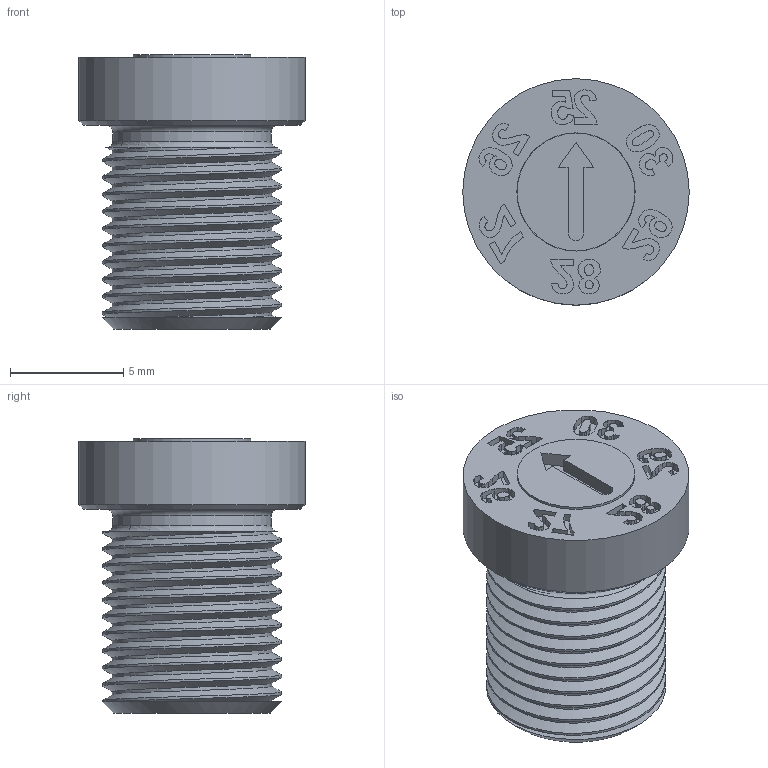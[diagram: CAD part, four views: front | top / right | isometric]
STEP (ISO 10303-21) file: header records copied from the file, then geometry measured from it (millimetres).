
FILE_DESCRIPTION(/* description */ (''),/* implementation_level */ '2;1');
FILE_NAME(/* name */ 'IMC-D1800-Y10-0.step',/* time_stamp */ '2025-06-17T08:42:50+02:00',/* author */ (''),/* organization */ (''),/* preprocessor_version */ 'ST-DEVELOPER v20.1',/* originating_system */ 'Autodesk Translation Framework v14.10.0.0',/* authorisation */ '');
FILE_SCHEMA (('AUTOMOTIVE_DESIGN { 1 0 10303 214 3 1 1 }'));
Length unit declared in the file: millimetre
Products named in the file (1): D1800-Y10-0
Bounding box: 10 x 10 x 12.1 mm (x, y, z)
Volume: 620.3 mm3; surface area: 656.3 mm2
Topology: 1 solids, 1 shells, 329 faces, 911 edges, 605 vertices
Faces by surface type: bspline 229, plane 69, cylinder 27, cone 2, torus 2
Full cylindrical faces by diameter (mm): 5.2 x1, 5.22 x1, 7 x1, 7.048 x3, 7.908 x5, 10 x1
Entity records: 14047 total; most frequent: CARTESIAN_POINT 7262, ORIENTED_EDGE 1822, EDGE_CURVE 911, DIRECTION 633, VERTEX_POINT 605, B_SPLINE_CURVE_WITH_KNOTS 504, LINE 383, VECTOR 383
